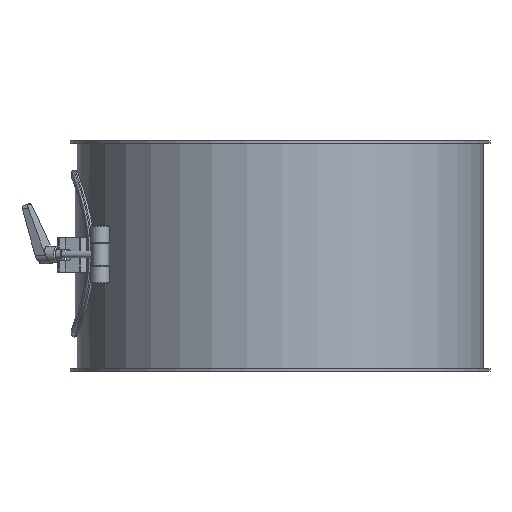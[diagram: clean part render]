
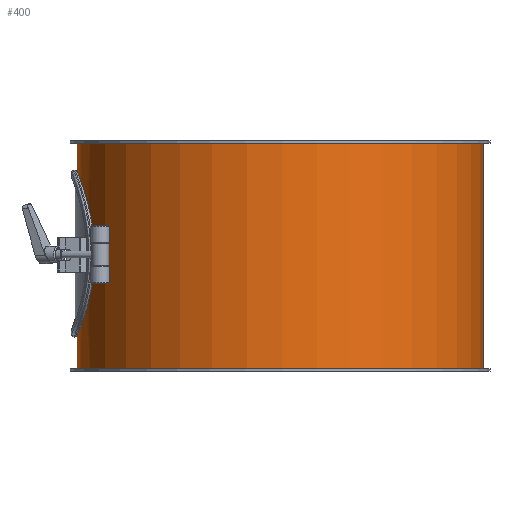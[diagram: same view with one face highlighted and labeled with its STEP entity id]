
A CAD part, front view. The second image highlights one B-rep face of the part: STEP entity #400.
In plain terms, the highlighted cylindrical face has radius 176.5 mm (diameter 353 mm), a full revolution.
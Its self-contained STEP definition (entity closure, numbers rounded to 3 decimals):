
#185=CARTESIAN_POINT('',(-166.871,-57.5,100.0));
#186=VERTEX_POINT('',#185);
#187=CARTESIAN_POINT('',(-166.871,-57.5,100.0));
#188=CARTESIAN_POINT('',(-166.871,-57.5,96.36));
#189=CARTESIAN_POINT('',(-166.994,-57.149,92.606));
#190=CARTESIAN_POINT('',(-167.489,-55.68,85.155));
#191=CARTESIAN_POINT('',(-167.861,-54.563,81.459));
#192=CARTESIAN_POINT('',(-168.789,-51.622,74.385));
#193=CARTESIAN_POINT('',(-169.344,-49.794,71.));
#194=CARTESIAN_POINT('',(-170.527,-45.582,64.748));
#195=CARTESIAN_POINT('',(-171.152,-43.197,61.88));
#196=CARTESIAN_POINT('',(-172.354,-38.121,56.804));
#197=CARTESIAN_POINT('',(-172.973,-35.254,54.419));
#198=CARTESIAN_POINT('',(-174.13,-29.001,50.206));
#199=CARTESIAN_POINT('',(-174.668,-25.616,48.379));
#200=CARTESIAN_POINT('',(-175.56,-18.54,45.436));
#201=CARTESIAN_POINT('',(-175.914,-14.843,44.319));
#202=CARTESIAN_POINT('',(-176.385,-7.392,42.851));
#203=CARTESIAN_POINT('',(-176.5,-3.638,42.5));
#204=CARTESIAN_POINT('',(-176.5,3.638,42.5));
#205=CARTESIAN_POINT('',(-176.385,7.392,42.851));
#206=CARTESIAN_POINT('',(-175.914,14.843,44.319));
#207=CARTESIAN_POINT('',(-175.56,18.54,45.436));
#208=CARTESIAN_POINT('',(-174.668,25.616,48.379));
#209=CARTESIAN_POINT('',(-174.13,29.001,50.206));
#210=CARTESIAN_POINT('',(-172.973,35.254,54.419));
#211=CARTESIAN_POINT('',(-172.354,38.121,56.804));
#212=CARTESIAN_POINT('',(-171.152,43.197,61.88));
#213=CARTESIAN_POINT('',(-170.527,45.582,64.748));
#214=CARTESIAN_POINT('',(-169.344,49.794,71.));
#215=CARTESIAN_POINT('',(-168.789,51.622,74.385));
#216=CARTESIAN_POINT('',(-167.861,54.563,81.459));
#217=CARTESIAN_POINT('',(-167.489,55.68,85.155));
#218=CARTESIAN_POINT('',(-166.994,57.149,92.606));
#219=CARTESIAN_POINT('',(-166.871,57.5,96.36));
#220=CARTESIAN_POINT('',(-166.871,57.5,103.64));
#221=CARTESIAN_POINT('',(-166.994,57.149,107.394));
#222=CARTESIAN_POINT('',(-167.489,55.68,114.845));
#223=CARTESIAN_POINT('',(-167.861,54.563,118.541));
#224=CARTESIAN_POINT('',(-168.789,51.622,125.615));
#225=CARTESIAN_POINT('',(-169.344,49.794,129.));
#226=CARTESIAN_POINT('',(-170.527,45.582,135.252));
#227=CARTESIAN_POINT('',(-171.152,43.197,138.12));
#228=CARTESIAN_POINT('',(-172.354,38.121,143.196));
#229=CARTESIAN_POINT('',(-172.973,35.254,145.581));
#230=CARTESIAN_POINT('',(-174.13,29.001,149.794));
#231=CARTESIAN_POINT('',(-174.668,25.616,151.621));
#232=CARTESIAN_POINT('',(-175.56,18.54,154.564));
#233=CARTESIAN_POINT('',(-175.914,14.843,155.681));
#234=CARTESIAN_POINT('',(-176.385,7.392,157.149));
#235=CARTESIAN_POINT('',(-176.5,3.638,157.5));
#236=CARTESIAN_POINT('',(-176.5,-3.638,157.5));
#237=CARTESIAN_POINT('',(-176.385,-7.392,157.149));
#238=CARTESIAN_POINT('',(-175.914,-14.843,155.681));
#239=CARTESIAN_POINT('',(-175.56,-18.54,154.564));
#240=CARTESIAN_POINT('',(-174.668,-25.616,151.621));
#241=CARTESIAN_POINT('',(-174.13,-29.001,149.794));
#242=CARTESIAN_POINT('',(-172.973,-35.254,145.581));
#243=CARTESIAN_POINT('',(-172.354,-38.121,143.196));
#244=CARTESIAN_POINT('',(-171.152,-43.197,138.12));
#245=CARTESIAN_POINT('',(-170.527,-45.582,135.252));
#246=CARTESIAN_POINT('',(-169.344,-49.794,129.));
#247=CARTESIAN_POINT('',(-168.789,-51.622,125.615));
#248=CARTESIAN_POINT('',(-167.861,-54.563,118.541));
#249=CARTESIAN_POINT('',(-167.489,-55.68,114.845));
#250=CARTESIAN_POINT('',(-166.994,-57.149,107.394));
#251=CARTESIAN_POINT('',(-166.871,-57.5,103.64));
#252=CARTESIAN_POINT('',(-166.871,-57.5,100.));
#253=B_SPLINE_CURVE_WITH_KNOTS('',3,(#187,#188,#189,#190,#191,#192,#193,#194,#195,#196,#197,#198,#199,#200,#201,#202,#203,#204,#205,#206,#207,#208,#209,#210,#211,#212,#213,#214,#215,#216,#217,#218,#219,#220,#221,#222,#223,#224,#225,#226,#227,#228,#229,#230,#231,#232,#233,#234,#235,#236,#237,#238,#239,#240,#241,#242,#243,#244,#245,#246,#247,#248,#249,#250,#251,#252),.UNSPECIFIED.,.T.,.U.,(4,2,2,2,2,2,2,2,2,2,2,2,2,2,2,2,2,2,2,2,2,2,2,2,2,2,2,2,2,2,2,2,4),(0.0,1.092,2.184,3.276,4.367,5.459,6.55,7.642,8.733,9.825,10.916,12.007,13.099,14.191,15.282,16.374,17.466,18.558,19.65,20.742,21.834,22.925,24.017,25.108,26.199,27.291,28.382,29.474,30.565,31.657,32.749,33.841,34.932),.UNSPECIFIED.);
#254=EDGE_CURVE('',#186,#186,#253,.T.);
#295=CARTESIAN_POINT('',(176.5,0.,198.0));
#296=VERTEX_POINT('',#295);
#297=CARTESIAN_POINT('',(0.0,0.0,198.0));
#298=DIRECTION('',(0.0,0.0,-1.0));
#299=DIRECTION('',(-1.0,0.0,0.0));
#300=AXIS2_PLACEMENT_3D('',#297,#298,#299);
#301=CIRCLE('',#300,176.5);
#302=EDGE_CURVE('',#296,#296,#301,.T.);
#343=CARTESIAN_POINT('',(-176.5,0.,2.0));
#344=VERTEX_POINT('',#343);
#345=CARTESIAN_POINT('',(0.0,0.0,2.0));
#346=DIRECTION('',(0.0,0.0,1.0));
#347=DIRECTION('',(-1.0,0.0,0.0));
#348=AXIS2_PLACEMENT_3D('',#345,#346,#347);
#349=CIRCLE('',#348,176.5);
#350=EDGE_CURVE('',#344,#344,#349,.T.);
#386=CARTESIAN_POINT('',(0.0,0.0,0.0));
#387=DIRECTION('',(0.0,0.0,1.0));
#388=DIRECTION('',(-1.0,0.0,0.0));
#389=AXIS2_PLACEMENT_3D('',#386,#387,#388);
#390=CYLINDRICAL_SURFACE('',#389,176.5);
#391=ORIENTED_EDGE('',*,*,#302,.T.);
#392=EDGE_LOOP('',(#391));
#393=FACE_OUTER_BOUND('',#392,.T.);
#394=ORIENTED_EDGE('',*,*,#254,.T.);
#395=EDGE_LOOP('',(#394));
#396=FACE_BOUND('',#395,.T.);
#397=ORIENTED_EDGE('',*,*,#350,.T.);
#398=EDGE_LOOP('',(#397));
#399=FACE_BOUND('',#398,.T.);
#400=ADVANCED_FACE('',(#393,#396,#399),#390,.T.);
